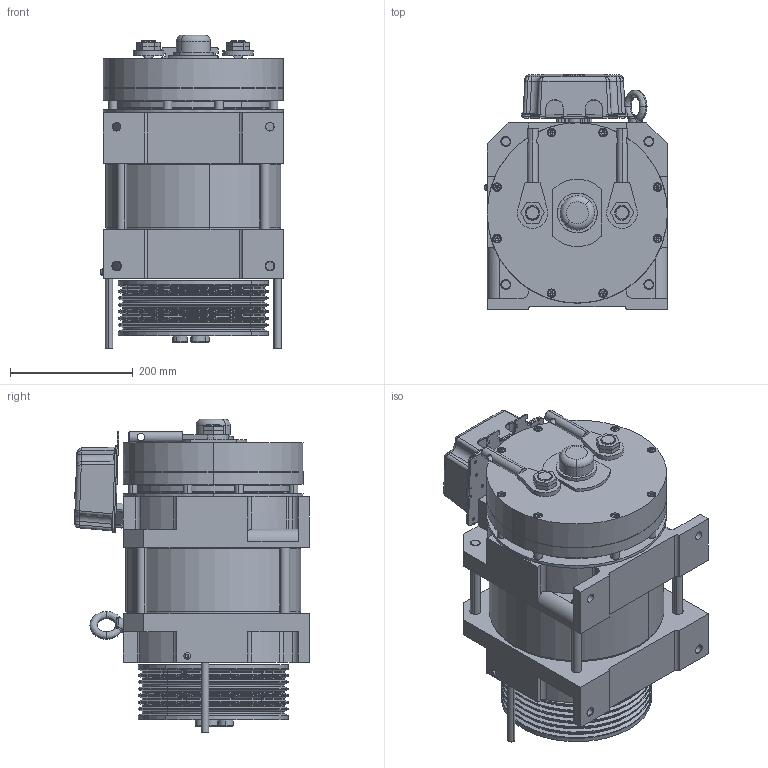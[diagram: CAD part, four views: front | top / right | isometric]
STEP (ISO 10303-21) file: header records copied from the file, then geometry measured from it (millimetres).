
FILE_DESCRIPTION (( 'STEP AP203' ), '1' );
FILE_NAME ('CSAG-E240-800.STEP', '2023-10-14T02:26:09', ( '' ), ( '' ), 'SwSTEP 2.0', 'SolidWorks 2016', '' );
FILE_SCHEMA (( 'CONFIG_CONTROL_DESIGN' ));
Length unit declared in the file: millimetre
Products named in the file (20): ZZPDG; 諉盄碟; 珝竘謫結啣2; hexagon socket head cap screws gb_GB_FASTENER_SCREWS_HSHCS M8X80-N; YYLDG; 珝竘謫240x7x朴6.5x11; 諉盄碟假蚾啣; 諉盄碟郪璃; 諉盄碟假蚾殤; 晤鎢ん迖殤; CSAG-E240-800; hexagon socket head cap screws gb_GB_FASTENER_SCREWS_HSHCS M16X30-N; 隅赽; 藻笠攫; 裂遠蹟隊-1; 耀攜晤鎢ん; hexagon socket head cap screws gb_GB_FASTENER_SCREWS_HSHCS M16X150-C; 結汋裝; SAG-E600秶雄ん; hexagon socket button head screws gb_GB_SOCKET_TYPE7 M6X10-N
Assembly tree (32 placements, depth 3):
  CSAG-E240-800
    YYLDG
    ZZPDG
    珝竘謫240x7x朴6.5x11
    耀攜晤鎢ん
    隅赽
    藻笠攫
    SAG-E600秶雄ん
    晤鎢ん迖殤
    hexagon socket button head screws gb_GB_SOCKET_TYPE7 M6X10-N
    hexagon socket head cap screws gb_GB_FASTENER_SCREWS_HSHCS M8X80-N  x8
    結汋裝  x2
    珝竘謫結啣2
    hexagon socket head cap screws gb_GB_FASTENER_SCREWS_HSHCS M16X30-N  x3
    裂遠蹟隊-1
    諉盄碟郪璃
      諉盄碟假蚾殤
      諉盄碟假蚾啣
      諉盄碟
    hexagon socket head cap screws gb_GB_FASTENER_SCREWS_HSHCS M16X150-C  x4
Bounding box: 298.3 x 383.15 x 511.65 mm (x, y, z)
Volume: 18015770.4 mm3; surface area: 2234619.1 mm2
Topology: 35 solids, 37 shells, 1674 faces, 4116 edges, 2559 vertices
Faces by surface type: plane 676, cylinder 660, cone 154, torus 133, bspline 49, sphere 2
Entity records: 49212 total; most frequent: CARTESIAN_POINT 13332, DIRECTION 7320, ORIENTED_EDGE 6796, EDGE_CURVE 3398, AXIS2_PLACEMENT_3D 2847, VERTEX_POINT 2155, EDGE_LOOP 1637, VECTOR 1626
